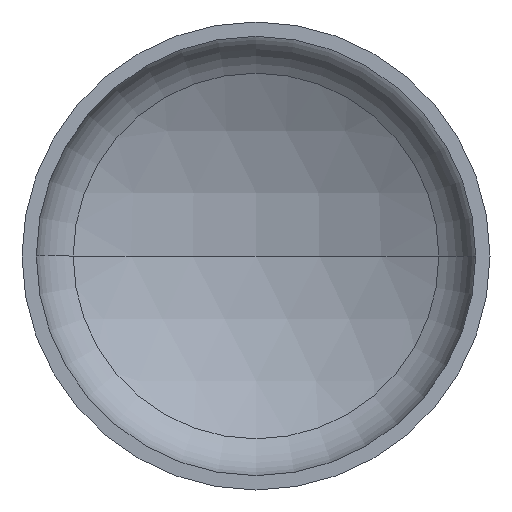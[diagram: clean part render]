
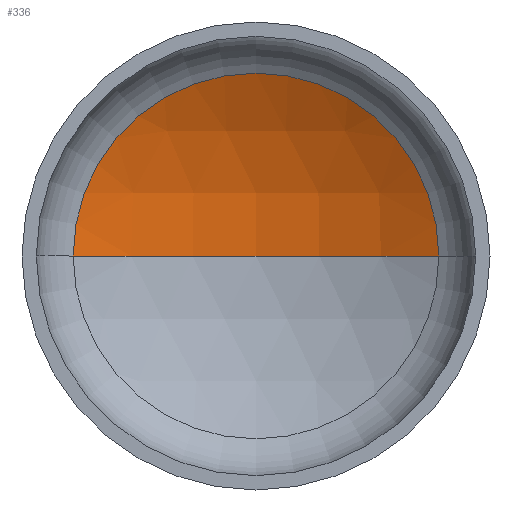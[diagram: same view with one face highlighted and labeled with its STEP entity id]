
A CAD part, front view. The second image highlights one B-rep face of the part: STEP entity #336.
In plain terms, the highlighted spherical face has radius 1120 mm.
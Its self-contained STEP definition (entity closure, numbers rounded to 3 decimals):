
#17 = AXIS2_PLACEMENT_3D ( 'NONE', #86, #264, #176 ) ;
#18 = AXIS2_PLACEMENT_3D ( 'NONE', #301, #144, #328 ) ;
#20 = AXIS2_PLACEMENT_3D ( 'NONE', #184, #70, #178 ) ;
#23 = AXIS2_PLACEMENT_3D ( 'NONE', #156, #159, #172 ) ;
#34 = EDGE_LOOP ( 'NONE', ( #85, #75, #285 ) ) ;
#70 = DIRECTION ( 'NONE',  ( 0., 0., -1. ) ) ;
#75 = ORIENTED_EDGE ( 'NONE', *, *, #345, .T. ) ;
#82 = CARTESIAN_POINT ( 'NONE',  ( 547.006, 317.614, 0. ) ) ;
#85 = ORIENTED_EDGE ( 'NONE', *, *, #354, .F. ) ;
#86 = CARTESIAN_POINT ( 'NONE',  ( 0., -659.722, 0. ) ) ;
#121 = VERTEX_POINT ( 'NONE', #186 ) ;
#129 = VERTEX_POINT ( 'NONE', #210 ) ;
#144 = DIRECTION ( 'NONE',  ( 0., 0., -1. ) ) ;
#156 = CARTESIAN_POINT ( 'NONE',  ( 0., 317.614, 0. ) ) ;
#159 = DIRECTION ( 'NONE',  ( 0., -1., 0. ) ) ;
#161 = CIRCLE ( 'NONE', #18, 1120. ) ;
#167 = VERTEX_POINT ( 'NONE', #82 ) ;
#172 = DIRECTION ( 'NONE',  ( 1., 0., 0. ) ) ;
#176 = DIRECTION ( 'NONE',  ( 1., 0., 0. ) ) ;
#178 = DIRECTION ( 'NONE',  ( -1., 0., 0. ) ) ;
#184 = CARTESIAN_POINT ( 'NONE',  ( 0., -659.722, 0. ) ) ;
#186 = CARTESIAN_POINT ( 'NONE',  ( 0., 460.278, 0. ) ) ;
#210 = CARTESIAN_POINT ( 'NONE',  ( -547.006, 317.614, 0. ) ) ;
#239 = SPHERICAL_SURFACE ( 'NONE', #20, 1120. ) ;
#264 = DIRECTION ( 'NONE',  ( 0., 0., 1. ) ) ;
#285 = ORIENTED_EDGE ( 'NONE', *, *, #340, .T. ) ;
#287 = FACE_OUTER_BOUND ( 'NONE', #34, .T. ) ;
#301 = CARTESIAN_POINT ( 'NONE',  ( 0., -659.722, 0. ) ) ;
#328 = DIRECTION ( 'NONE',  ( -1., 0., 0. ) ) ;
#336 = ADVANCED_FACE ( 'NONE', ( #287 ), #239, .F. ) ;
#340 = EDGE_CURVE ( 'NONE', #167, #129, #402, .T. ) ;
#345 = EDGE_CURVE ( 'NONE', #121, #167, #161, .T. ) ;
#352 = CIRCLE ( 'NONE', #17, 1120. ) ;
#354 = EDGE_CURVE ( 'NONE', #121, #129, #352, .T. ) ;
#402 = CIRCLE ( 'NONE', #23, 547.006 ) ;
